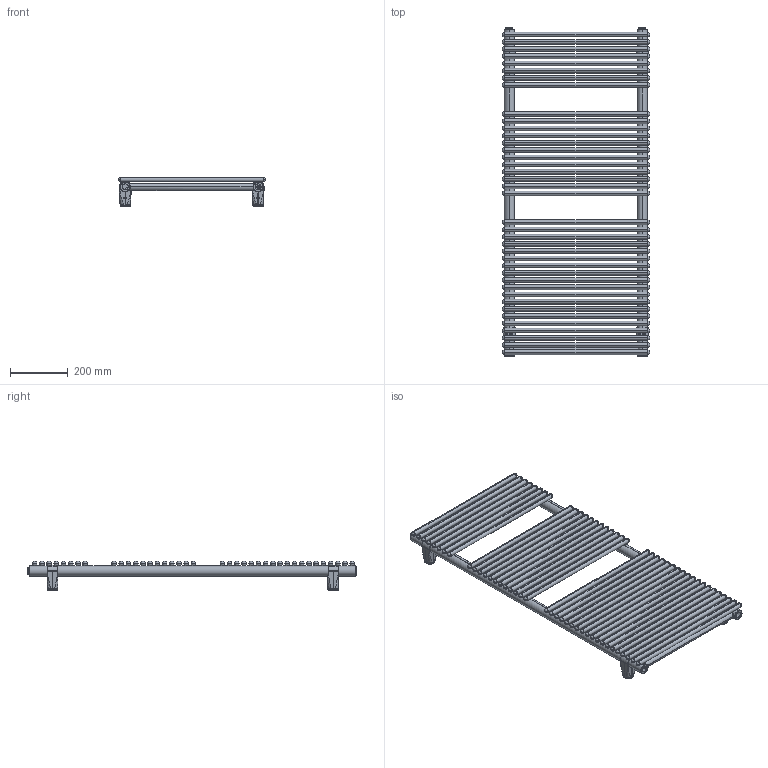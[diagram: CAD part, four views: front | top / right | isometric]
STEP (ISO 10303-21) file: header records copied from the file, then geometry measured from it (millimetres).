
FILE_DESCRIPTION (( 'STEP AP203' ), '1' );
FILE_NAME ('511116.STEP', '2026-03-05T09:14:52', ( '' ), ( '' ), 'SwSTEP 2.0', 'SolidWorks 2025', '' );
FILE_SCHEMA (( 'CONFIG_CONTROL_DESIGN' ));
Length unit declared in the file: millimetre
Products named in the file (11): EXTRATUBO 25_460; supporto_1.prt; supporto-MANINA-BUS; tappo_sfiato.prt; COLLETTORE INT 25 SCALDASALVIETTE [Con configurazioni]_1132; 511116; supporto_3.prt; supporto_2.prt; TRAVERSINO TONDO 16 [Con configurazioni]_510; supporto.asm; tappo_sx.prt
Assembly tree (52 placements, depth 4):
  511116
    TRAVERSINO TONDO 16 [Con configurazioni]_510  x39
    COLLETTORE INT 25 SCALDASALVIETTE [Con configurazioni]_1132  x2
    EXTRATUBO 25_460
    tappo_sfiato.prt
    tappo_sx.prt
    supporto-MANINA-BUS  x4
      supporto.asm
        supporto_1.prt
        supporto_2.prt
        supporto_3.prt
Bounding box: 510 x 1138 x 102 mm (x, y, z)
Volume: 1770221.6 mm3; surface area: 2488048.4 mm2
Topology: 54 solids, 58 shells, 1799 faces, 5148 edges, 2913 vertices
Faces by surface type: cylinder 750, sphere 368, bspline 337, plane 214, torus 128, cone 2
Entity records: 35551 total; most frequent: CARTESIAN_POINT 22768, ORIENTED_EDGE 2604, DIRECTION 1582, EDGE_CURVE 1306, VERTEX_POINT 771, B_SPLINE_CURVE_WITH_KNOTS 737, AXIS2_PLACEMENT_3D 629, EDGE_LOOP 498
